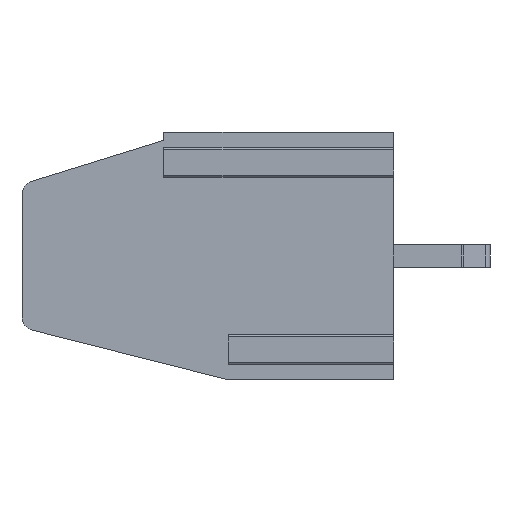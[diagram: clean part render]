
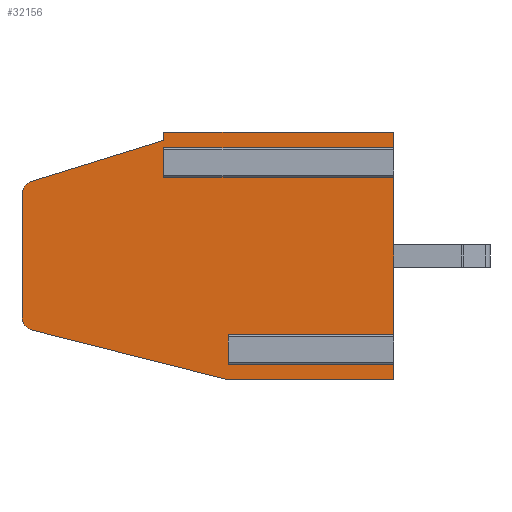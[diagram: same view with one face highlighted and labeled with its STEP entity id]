
A CAD part, left-side view. The second image highlights one B-rep face of the part: STEP entity #32156.
In plain terms, the highlighted planar face has unit normal (-1, 0, 0).
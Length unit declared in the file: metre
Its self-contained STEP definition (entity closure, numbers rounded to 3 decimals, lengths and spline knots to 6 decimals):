
#3386=DIRECTION('',(0.,0.,-1.));
#3387=VECTOR('',#3386,0.000732);
#3388=CARTESIAN_POINT('',(0.00055,0.,-0.008268));
#3389=LINE('',#3388,#3387);
#3418=DIRECTION('',(0.,0.,-1.));
#3419=VECTOR('',#3418,0.006065);
#3420=CARTESIAN_POINT('',(0.00055,0.,-0.001468));
#3421=LINE('',#3420,#3419);
#3450=DIRECTION('',(0.,0.,-1.));
#3451=VECTOR('',#3450,0.000732);
#3452=CARTESIAN_POINT('',(0.00055,0.,0.));
#3453=LINE('',#3452,#3451);
#3967=DIRECTION('',(0.,0.,1.));
#3968=VECTOR('',#3967,0.004443);
#3969=CARTESIAN_POINT('',(0.00055,0.0135,-0.006711));
#3970=LINE('',#3969,#3968);
#8919=DIRECTION('',(0.,1.,0.));
#8920=VECTOR('',#8919,0.006);
#8921=CARTESIAN_POINT('',(0.00055,0.,-0.009));
#8922=LINE('',#8921,#8920);
#9185=DIRECTION('',(0.,-1.,0.));
#9186=VECTOR('',#9185,0.00835);
#9187=CARTESIAN_POINT('',(0.00055,0.00835,0.));
#9188=LINE('',#9187,#9186);
#14011=DIRECTION('',(0.,-0.969,-0.246));
#14012=VECTOR('',#14011,0.007348);
#14013=CARTESIAN_POINT('',(0.00055,0.013123,-0.007196));
#14014=LINE('',#14013,#14012);
#14015=CARTESIAN_POINT('',(0.00055,0.013,-0.006711));
#14016=DIRECTION('',(-1.,0.,0.));
#14017=DIRECTION('',(0.,1.,0.));
#14018=AXIS2_PLACEMENT_3D('',#14015,#14016,#14017);
#14020=CARTESIAN_POINT('',(0.00055,0.013,-0.002268));
#14021=DIRECTION('',(-1.,0.,0.));
#14022=DIRECTION('',(0.,0.297,0.955));
#14023=AXIS2_PLACEMENT_3D('',#14020,#14021,#14022);
#14025=DIRECTION('',(0.,0.955,-0.297));
#14026=VECTOR('',#14025,0.005025);
#14027=CARTESIAN_POINT('',(0.00055,0.00835,-0.0003));
#14028=LINE('',#14027,#14026);
#14029=DIRECTION('',(0.,1.,0.));
#14030=VECTOR('',#14029,0.006);
#14031=CARTESIAN_POINT('',(0.00055,0.,-0.007532));
#14032=LINE('',#14031,#14030);
#14042=DIRECTION('',(0.,0.,-1.));
#14043=VECTOR('',#14042,0.000735);
#14044=CARTESIAN_POINT('',(0.00055,0.006,-0.007532));
#14045=LINE('',#14044,#14043);
#14069=DIRECTION('',(0.,-1.,0.));
#14070=VECTOR('',#14069,0.006);
#14071=CARTESIAN_POINT('',(0.00055,0.006,-0.008268));
#14072=LINE('',#14071,#14070);
#14125=DIRECTION('',(0.,0.,1.));
#14126=VECTOR('',#14125,0.0003);
#14127=CARTESIAN_POINT('',(0.00055,0.00835,-0.0003));
#14128=LINE('',#14127,#14126);
#14129=DIRECTION('',(0.,1.,0.));
#14130=VECTOR('',#14129,0.00835);
#14131=CARTESIAN_POINT('',(0.00055,0.,-0.000732));
#14132=LINE('',#14131,#14130);
#14142=DIRECTION('',(0.,0.,-1.));
#14143=VECTOR('',#14142,0.000735);
#14144=CARTESIAN_POINT('',(0.00055,0.00835,-0.000732));
#14145=LINE('',#14144,#14143);
#14169=DIRECTION('',(0.,-1.,0.));
#14170=VECTOR('',#14169,0.00835);
#14171=CARTESIAN_POINT('',(0.00055,0.00835,-0.001468));
#14172=LINE('',#14171,#14170);
#15553=CARTESIAN_POINT('',(0.00055,0.006,-0.007532));
#15554=CARTESIAN_POINT('',(0.00055,0.006,-0.008268));
#15555=VERTEX_POINT('',#15553);
#15556=VERTEX_POINT('',#15554);
#15557=CARTESIAN_POINT('',(0.00055,0.,-0.008268));
#15558=VERTEX_POINT('',#15557);
#15559=CARTESIAN_POINT('',(0.00055,0.,-0.009));
#15560=VERTEX_POINT('',#15559);
#15561=CARTESIAN_POINT('',(0.00055,0.006,-0.009));
#15562=VERTEX_POINT('',#15561);
#15563=CARTESIAN_POINT('',(0.00055,0.013123,-0.007196));
#15564=VERTEX_POINT('',#15563);
#15565=CARTESIAN_POINT('',(0.00055,0.0135,-0.006711));
#15566=VERTEX_POINT('',#15565);
#15567=CARTESIAN_POINT('',(0.00055,0.0135,-0.002268));
#15568=VERTEX_POINT('',#15567);
#15569=CARTESIAN_POINT('',(0.00055,0.013148,-0.001791));
#15570=VERTEX_POINT('',#15569);
#15571=CARTESIAN_POINT('',(0.00055,0.00835,-0.0003));
#15572=VERTEX_POINT('',#15571);
#15573=CARTESIAN_POINT('',(0.00055,0.00835,0.));
#15574=VERTEX_POINT('',#15573);
#15575=CARTESIAN_POINT('',(0.00055,0.,0.));
#15576=VERTEX_POINT('',#15575);
#15577=CARTESIAN_POINT('',(0.00055,0.,-0.000732));
#15578=VERTEX_POINT('',#15577);
#15579=CARTESIAN_POINT('',(0.00055,0.00835,-0.000732));
#15580=VERTEX_POINT('',#15579);
#15581=CARTESIAN_POINT('',(0.00055,0.00835,-0.001468));
#15582=VERTEX_POINT('',#15581);
#15583=CARTESIAN_POINT('',(0.00055,0.,-0.001468));
#15584=VERTEX_POINT('',#15583);
#15585=CARTESIAN_POINT('',(0.00055,0.,-0.007532));
#15586=VERTEX_POINT('',#15585);
#32122=CARTESIAN_POINT('',(0.00055,0.0075,-0.0045));
#32123=DIRECTION('',(1.,0.,0.));
#32124=DIRECTION('',(0.,0.,-1.));
#32125=AXIS2_PLACEMENT_3D('',#32122,#32123,#32124);
#32126=PLANE('',#32125);
#32128=ORIENTED_EDGE('',*,*,#32127,.T.);
#32130=ORIENTED_EDGE('',*,*,#32129,.T.);
#32132=ORIENTED_EDGE('',*,*,#32131,.T.);
#32133=ORIENTED_EDGE('',*,*,#21092,.T.);
#32134=ORIENTED_EDGE('',*,*,#26881,.T.);
#32135=ORIENTED_EDGE('',*,*,#26998,.F.);
#32137=ORIENTED_EDGE('',*,*,#32136,.F.);
#32138=ORIENTED_EDGE('',*,*,#21625,.T.);
#32140=ORIENTED_EDGE('',*,*,#32139,.F.);
#32142=ORIENTED_EDGE('',*,*,#32141,.F.);
#32144=ORIENTED_EDGE('',*,*,#32143,.T.);
#32145=ORIENTED_EDGE('',*,*,#27272,.T.);
#32146=ORIENTED_EDGE('',*,*,#21124,.T.);
#32148=ORIENTED_EDGE('',*,*,#32147,.T.);
#32150=ORIENTED_EDGE('',*,*,#32149,.T.);
#32152=ORIENTED_EDGE('',*,*,#32151,.T.);
#32153=ORIENTED_EDGE('',*,*,#21108,.T.);
#32154=EDGE_LOOP('',(#32128,#32130,#32132,#32133,#32134,#32135,#32137,#32138,
#32140,#32142,#32144,#32145,#32146,#32148,#32150,#32152,#32153));
#32155=FACE_OUTER_BOUND('',#32154,.F.);
#32156=ADVANCED_FACE('',(#32155),#32126,.F.);
#14019=CIRCLE('',#14018,0.0005);
#14024=CIRCLE('',#14023,0.0005);
#21092=EDGE_CURVE('',#15558,#15560,#3389,.T.);
#21108=EDGE_CURVE('',#15584,#15586,#3421,.T.);
#21124=EDGE_CURVE('',#15576,#15578,#3453,.T.);
#21625=EDGE_CURVE('',#15566,#15568,#3970,.T.);
#26881=EDGE_CURVE('',#15560,#15562,#8922,.T.);
#26998=EDGE_CURVE('',#15564,#15562,#14014,.T.);
#27272=EDGE_CURVE('',#15574,#15576,#9188,.T.);
#32127=EDGE_CURVE('',#15586,#15555,#14032,.T.);
#32129=EDGE_CURVE('',#15555,#15556,#14045,.T.);
#32131=EDGE_CURVE('',#15556,#15558,#14072,.T.);
#32136=EDGE_CURVE('',#15566,#15564,#14019,.T.);
#32139=EDGE_CURVE('',#15570,#15568,#14024,.T.);
#32141=EDGE_CURVE('',#15572,#15570,#14028,.T.);
#32143=EDGE_CURVE('',#15572,#15574,#14128,.T.);
#32147=EDGE_CURVE('',#15578,#15580,#14132,.T.);
#32149=EDGE_CURVE('',#15580,#15582,#14145,.T.);
#32151=EDGE_CURVE('',#15582,#15584,#14172,.T.);
